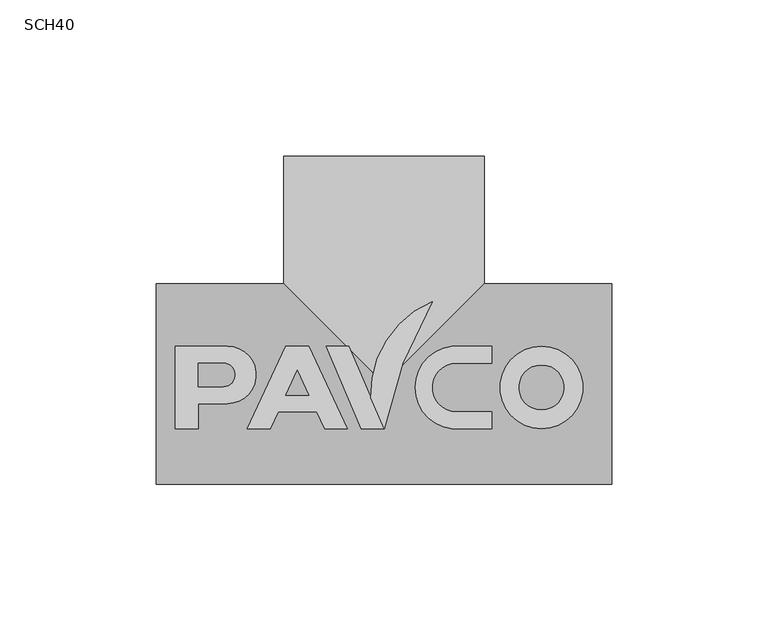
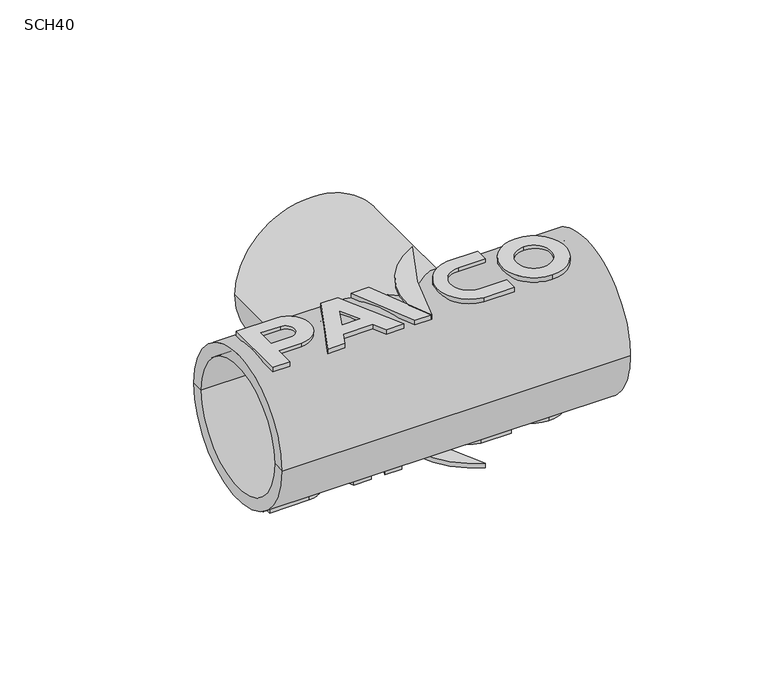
"""IFC4 building model written with IfcOpenShell, lengths in millimetres: pipe fitting geometry, PavcoWavin_UnionesDeTuberia_CpvcTee : SCH40."""

from ifc_helpers import new_model, si_unit, point, frame, frame_2d, origin, place, context, project, spatial, polyline, circle_curve, ellipse_curve, trimmed, segment, composite_curve, outline, extrude, source, transform, mapped, element, save
from ifc_brep_helpers import plane_surface, cylinder_surface, revolved_surface, advanced_brep


def sch40_e6cb78b8(model_context):
    return source(origin(), model_context, "Body", "SolidModel", [
        extrude(outline(polyline([(0.0, 0.0), (7.2571428, 0.0), (19.6089665, -26.4885714), (12.3518237, -26.4885714), (9.8137777, -21.0457143), (-2.5566349, -21.0457143), (-5.0946809, -26.4885714), (-12.3518238, -26.4885714), (0.0, 0.0)]), holes=[polyline([(7.3095723, -15.6754286), (3.6285714, -7.7814965), (-0.0524296, -15.6754286), (7.3095723, -15.6754286)])]), frame((-24.1446809, -12.1305766, -32.9801363), z_axis=(0.0, 0.0003380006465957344, 0.9999999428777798), x_axis=(-1.0, 0.0, 0.0)), (0.0, 0.0, 1.0), 1.9942346),
        extrude(outline(composite_curve([segment(polyline([(-10.8131428, 0.0), (0.0, 0.0)]), True, "CONTINUOUS"), segment(trimmed(circle_curve(frame_2d((77.5401711, -112.6545779)), 136.7608571), [point((0.0, 0.0))], [point((-31.5169385, -30.1313757))], True, "CARTESIAN"), True, "CONTINUOUS"), segment(trimmed(circle_curve(frame_2d((0.849861, -30.192512)), 32.3668571), [point((-31.5169385, -30.1313757))], [point((-10.8131428, 0.0))], False, "CARTESIAN"), True, "CONTINUOUS")], self_intersect=False)), frame((0.0, 14.3579933, -32.9890895), z_axis=(0.0, 0.0003380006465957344, 0.9999999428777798), x_axis=(0.3907311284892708, 0.9205048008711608, -0.000311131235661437)), (0.0, 0.0, 1.0), 1.9942346),
        extrude(outline(polyline([(0.0, 0.0), (7.2571429, 0.0), (-3.9865886, -26.4885714), (-11.2437314, -26.4885714), (0.0, 0.0)])), frame((-7.2571429, 14.3579933, -32.9890895), z_axis=(0.0, 0.0003380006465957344, 0.9999999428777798), x_axis=(1.0, 0.0, 0.0)), (0.0, 0.0, 1.0), 1.9942346),
        extrude(outline(composite_curve([segment(trimmed(circle_curve(frame_2d((0.0, -13.337201)), 13.337201), [point((-1.5715678, -26.5814867))], [point((-1.5715678, -0.0929153))], False, "CARTESIAN"), True, "CONTINUOUS"), segment(polyline([(-1.5715678, -0.0929153), (11.1919419, -0.0929153), (11.1919419, -5.5357724), (-0.0929153, -5.5357724)]), True, "CONTINUOUS"), segment(trimmed(circle_curve(frame_2d((-0.0929153, -13.337201)), 7.8014286), [point((-0.0929153, -5.5357724))], [point((-0.0929153, -21.1386295))], True, "CARTESIAN"), True, "CONTINUOUS"), segment(polyline([(-0.0929153, -21.1386295), (11.1919419, -21.1386295), (11.1919419, -26.5814867), (-1.5715678, -26.5814867)]), True, "CONTINUOUS")], self_intersect=False)), frame((23.3157724, 14.4509086, -32.9891209), z_axis=(0.0, 0.0003380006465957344, 0.9999999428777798), x_axis=(1.0, 0.0, 0.0)), (0.0, 0.0, 1.0), 1.9942346),
        extrude(outline(composite_curve([segment(trimmed(circle_curve(frame_2d((0.0, -13.2442857)), 13.2442857), [point((0.0, -26.4885714))], [point((0.0, 0.0))], False, "CARTESIAN"), True, "CONTINUOUS"), segment(trimmed(circle_curve(frame_2d((0.0, -13.2442857)), 13.2442857), [point((0.0, 0.0))], [point((0.0, -26.4885714))], False, "CARTESIAN"), True, "CONTINUOUS")], self_intersect=False), holes=[composite_curve([segment(trimmed(circle_curve(frame_2d((0.0, -13.2442857)), 7.1966667), [point((0.0, -20.4409524))], [point((0.0, -6.047619))], True, "CARTESIAN"), True, "CONTINUOUS"), segment(trimmed(circle_curve(frame_2d((0.0, -13.2442857)), 7.1966667), [point((0.0, -6.047619))], [point((0.0, -20.4409524))], True, "CARTESIAN"), True, "CONTINUOUS")], self_intersect=False)]), frame((50.4371429, 14.3579933, -32.9890895), z_axis=(0.0, 0.0003380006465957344, 0.9999999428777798), x_axis=(1.0, 0.0, 0.0)), (0.0, 0.0, 1.0), 1.9942346),
        extrude(outline(composite_curve([segment(polyline([(-26.4885714, 0.0), (0.0, 0.0), (0.0, -7.2571429), (-8.0917143, -7.2571429), (-8.0917143, -16.5708253)]), True, "CONTINUOUS"), segment(trimmed(circle_curve(frame_2d((-17.2901428, -16.5708253)), 9.1984286), [point((-8.0917143, -16.5708253))], [point((-26.4885714, -16.5708253))], False, "CARTESIAN"), True, "CONTINUOUS"), segment(polyline([(-26.4885714, -16.5708253), (-26.4885714, 0.0)]), True, "CONTINUOUS")], self_intersect=False), holes=[composite_curve([segment(polyline([(-13.5345714, -7.2571429), (-21.0457142, -7.2571429), (-21.0457142, -15.3125714)]), True, "CONTINUOUS"), segment(trimmed(circle_curve(frame_2d((-17.2901428, -15.3125714)), 3.7555714), [point((-21.0457142, -15.3125714))], [point((-13.5345714, -15.3125714))], True, "CARTESIAN"), True, "CONTINUOUS"), segment(polyline([(-13.5345714, -15.3125714), (-13.5345714, -7.2571429)]), True, "CONTINUOUS")], self_intersect=False)]), frame((-66.802, 14.3579933, -32.9890895), z_axis=(0.0, 0.0003380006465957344, 0.9999999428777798), x_axis=(0.0, 0.9999999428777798, -0.0003380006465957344)), (0.0, 0.0, 1.0), 1.9942346),
        extrude(outline(polyline([(0.0, 0.0), (12.3518238, -26.4885714), (5.0946809, -26.4885714), (2.5566349, -21.0457143), (-9.8137777, -21.0457143), (-12.3518237, -26.4885714), (-19.6089665, -26.4885714), (-7.2571428, 0.0), (0.0, 0.0)]), holes=[polyline([(-7.3095723, -15.6754285), (0.0524296, -15.6754285), (-3.6285714, -7.7814966), (-7.3095723, -15.6754285)])]), frame((-24.1446809, 12.1299714, 30.9858749), z_axis=(0.0, 0.0003402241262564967, 0.9999999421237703), x_axis=(1.0, 0.0, 0.0)), (0.0, 0.0, 1.0), 1.9942346),
        extrude(outline(composite_curve([segment(trimmed(circle_curve(frame_2d((-0.8498609, -30.1925121)), 32.3668571), [point((10.8131428, 0.0))], [point((31.5169385, -30.1313757))], False, "CARTESIAN"), True, "CONTINUOUS"), segment(trimmed(circle_curve(frame_2d((-77.540171, -112.654578)), 136.7608571), [point((31.5169385, -30.1313757))], [point((0.0, 0.0))], True, "CARTESIAN"), True, "CONTINUOUS"), segment(polyline([(0.0, 0.0), (10.8131428, 0.0)]), True, "CONTINUOUS")], self_intersect=False)), frame((0.0, -14.3585985, 30.9948869), z_axis=(0.0, 0.0003402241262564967, 0.9999999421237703), x_axis=(-0.3907311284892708, 0.9205048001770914, -0.00031317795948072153)), (0.0, 0.0, 1.0), 1.9942346),
        extrude(outline(polyline([(0.0, 0.0), (11.2437314, -26.4885714), (3.9865886, -26.4885714), (-7.2571429, 0.0), (0.0, 0.0)])), frame((-7.2571429, -14.3585985, 30.9948869), z_axis=(0.0, 0.0003402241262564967, 0.9999999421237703), x_axis=(-1.0, 0.0, 0.0)), (0.0, 0.0, 1.0), 1.9942346),
        extrude(outline(composite_curve([segment(polyline([(1.5715678, -26.5814866), (-11.1919419, -26.5814866), (-11.1919419, -21.1386295), (0.0929153, -21.1386295)]), True, "CONTINUOUS"), segment(trimmed(circle_curve(frame_2d((0.0929153, -13.337201)), 7.8014286), [point((0.0929153, -21.1386295))], [point((0.0929153, -5.5357723))], True, "CARTESIAN"), True, "CONTINUOUS"), segment(polyline([(0.0929153, -5.5357723), (-11.1919419, -5.5357723), (-11.1919419, -0.0929152), (1.5715678, -0.0929152)]), True, "CONTINUOUS"), segment(trimmed(circle_curve(frame_2d((0.0, -13.337201)), 13.337201), [point((1.5715678, -0.0929152))], [point((1.5715678, -26.5814866))], False, "CARTESIAN"), True, "CONTINUOUS")], self_intersect=False)), frame((23.3157724, -14.4515137, 30.9949185), z_axis=(0.0, 0.0003402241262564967, 0.9999999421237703), x_axis=(-1.0, 0.0, 0.0)), (0.0, 0.0, 1.0), 1.9942346),
        extrude(outline(composite_curve([segment(trimmed(circle_curve(frame_2d((0.0, -13.2442858)), 13.2442857), [point((0.0, -26.4885714))], [point((0.0, 0.0))], False, "CARTESIAN"), True, "CONTINUOUS"), segment(trimmed(circle_curve(frame_2d((0.0, -13.2442858)), 13.2442857), [point((0.0, 0.0))], [point((0.0, -26.4885714))], False, "CARTESIAN"), True, "CONTINUOUS")], self_intersect=False), holes=[composite_curve([segment(trimmed(circle_curve(frame_2d((0.0, -13.2442858)), 7.1966667), [point((0.0, -20.4409524))], [point((0.0, -6.047619))], True, "CARTESIAN"), True, "CONTINUOUS"), segment(trimmed(circle_curve(frame_2d((0.0, -13.2442858)), 7.1966667), [point((0.0, -6.047619))], [point((0.0, -20.4409524))], True, "CARTESIAN"), True, "CONTINUOUS")], self_intersect=False)]), frame((50.4371429, -14.3585985, 30.9948869), z_axis=(0.0, 0.0003402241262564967, 0.9999999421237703), x_axis=(-1.0, 0.0, 0.0)), (0.0, 0.0, 1.0), 1.9942346),
        extrude(outline(composite_curve([segment(polyline([(26.4885714, 0.0), (26.4885714, -16.5708253)]), True, "CONTINUOUS"), segment(trimmed(circle_curve(frame_2d((17.2901429, -16.5708253)), 9.1984286), [point((26.4885714, -16.5708253))], [point((8.0917143, -16.5708253))], False, "CARTESIAN"), True, "CONTINUOUS"), segment(polyline([(8.0917143, -16.5708253), (8.0917143, -7.2571429), (0.0, -7.2571429), (0.0, 0.0), (26.4885714, 0.0)]), True, "CONTINUOUS")], self_intersect=False), holes=[composite_curve([segment(polyline([(13.5345715, -7.2571429), (13.5345715, -15.3125714)]), True, "CONTINUOUS"), segment(trimmed(circle_curve(frame_2d((17.2901429, -15.3125714)), 3.7555714), [point((13.5345715, -15.3125714))], [point((21.0457143, -15.3125714))], True, "CARTESIAN"), True, "CONTINUOUS"), segment(polyline([(21.0457143, -15.3125714), (21.0457143, -7.2571429), (13.5345715, -7.2571429)]), True, "CONTINUOUS")], self_intersect=False)]), frame((-66.802, -14.3585985, 30.9948869), z_axis=(0.0, 0.0003402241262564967, 0.9999999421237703), x_axis=(0.0, 0.9999999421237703, -0.0003402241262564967)), (0.0, 0.0, 1.0), 1.9942346),
        advanced_brep(
        [(-73.03, -32.19, 0.0), (-73.03, 32.19, 0.0), (-32.19, 32.19, 0.0), (0.0, 0.0, -32.19), (32.19, 32.19, 0.0), (73.03, 32.19, 0.0), (73.03, -32.19, 0.0), (0.0, 0.0, 32.19), (-73.03, -26.99, 0.0), (-73.03, 26.99, 0.0), (73.03, 26.99, 0.0), (73.03, -26.99, 0.0), (-29.35, -26.99, 0.0), (-29.35, 26.99, 0.0), (-29.35, 0.0, 0.0), (29.35, -26.99, 0.0), (29.35, 26.99, 0.0), (29.35, 0.0, 0.0), (26.99, 29.35, 0.0), (26.99, 73.03, 0.0), (-26.99, 73.03, 0.0), (-26.99, 29.35, 0.0), (0.0, 29.35, 0.0), (32.19, 73.03, 0.0), (-32.19, 73.03, 0.0)],
        [
            (0, 1, circle_curve(frame((-73.03, 0.0, 0.0), z_axis=(1.0, 0.0, 0.0), x_axis=(0.0, 1.0, 0.0)), 32.19)),
            (1, 2),
            (2, 3, ellipse_curve(frame((0.0, 0.0, 0.0), z_axis=(-0.7071067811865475, -0.7071067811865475, 0.0), x_axis=(-0.7071067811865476, 0.7071067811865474, 0.0)), 45.5235346, 32.19)),
            (3, 4, ellipse_curve(frame((0.0, 0.0, 0.0), z_axis=(0.7071067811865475, -0.7071067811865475, 0.0), x_axis=(-0.7071067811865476, -0.7071067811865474, 0.0)), 45.5235346, 32.19)),
            (4, 5),
            (5, 6, circle_curve(frame((73.03, 0.0, 0.0), z_axis=(-1.0, 0.0, 0.0), x_axis=(0.0, 1.0, 0.0)), 32.19)),
            (6, 0),
            (6, 5, circle_curve(frame((73.03, 0.0, 0.0), z_axis=(-1.0, 0.0, 0.0), x_axis=(0.0, 1.0, 0.0)), 32.19)),
            (4, 7, ellipse_curve(frame((0.0, 0.0, 0.0), z_axis=(0.7071067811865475, -0.7071067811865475, 0.0), x_axis=(-0.7071067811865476, -0.7071067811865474, 0.0)), 45.5235346, 32.19)),
            (7, 2, ellipse_curve(frame((0.0, 0.0, 0.0), z_axis=(-0.7071067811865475, -0.7071067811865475, 0.0), x_axis=(-0.7071067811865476, 0.7071067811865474, 0.0)), 45.5235346, 32.19)),
            (1, 0, circle_curve(frame((-73.03, 0.0, 0.0), z_axis=(1.0, 0.0, 0.0), x_axis=(0.0, 1.0, 0.0)), 32.19)),
            (0, 8),
            (8, 9, circle_curve(frame((-73.03, 0.0, 0.0), z_axis=(1.0, 0.0, 0.0), x_axis=(0.0, 1.0, 0.0)), 26.99)),
            (9, 1),
            (9, 8, circle_curve(frame((-73.03, 0.0, 0.0), z_axis=(1.0, 0.0, 0.0), x_axis=(0.0, 1.0, 0.0)), 26.99)),
            (5, 10),
            (10, 11, circle_curve(frame((73.03, 0.0, 0.0), z_axis=(-1.0, 0.0, 0.0), x_axis=(0.0, 1.0, 0.0)), 26.99)),
            (11, 6),
            (11, 10, circle_curve(frame((73.03, 0.0, 0.0), z_axis=(-1.0, 0.0, 0.0), x_axis=(0.0, 1.0, 0.0)), 26.99)),
            (8, 12),
            (12, 13, circle_curve(frame((-29.35, 0.0, 0.0), z_axis=(1.0, 0.0, 0.0), x_axis=(0.0, 1.0, 0.0)), 26.99)),
            (13, 9),
            (13, 12, circle_curve(frame((-29.35, 0.0, 0.0), z_axis=(1.0, 0.0, 0.0), x_axis=(0.0, 1.0, 0.0)), 26.99)),
            (12, 14),
            (14, 13),
            (15, 11),
            (10, 16),
            (16, 15, circle_curve(frame((29.35, 0.0, 0.0), z_axis=(-1.0, 0.0, 0.0), x_axis=(0.0, 1.0, 0.0)), 26.99)),
            (15, 16, circle_curve(frame((29.35, 0.0, 0.0), z_axis=(-1.0, 0.0, 0.0), x_axis=(0.0, 1.0, 0.0)), 26.99)),
            (16, 17),
            (17, 15),
            (18, 19),
            (19, 20, circle_curve(frame((0.0, 73.03, 0.0), z_axis=(0.0, 1.0, 0.0), x_axis=(-1.0, 0.0, 0.0)), 26.99)),
            (20, 21),
            (21, 18, circle_curve(frame((0.0, 29.35, 0.0), z_axis=(0.0, -1.0, 0.0), x_axis=(-1.0, 0.0, 0.0)), 26.99)),
            (18, 21, circle_curve(frame((0.0, 29.35, 0.0), z_axis=(0.0, -1.0, 0.0), x_axis=(-1.0, 0.0, 0.0)), 26.99)),
            (20, 19, circle_curve(frame((0.0, 73.03, 0.0), z_axis=(0.0, 1.0, 0.0), x_axis=(-1.0, 0.0, 0.0)), 26.99)),
            (21, 22),
            (22, 18),
            (23, 24, circle_curve(frame((0.0, 73.03, 0.0), z_axis=(0.0, 1.0, 0.0), x_axis=(-1.0, 0.0, 0.0)), 32.19)),
            (24, 20),
            (19, 23),
            (24, 23, circle_curve(frame((0.0, 73.03, 0.0), z_axis=(0.0, 1.0, 0.0), x_axis=(-1.0, 0.0, 0.0)), 32.19)),
            (23, 4),
            (2, 24),
        ],
        [
            cylinder_surface(frame((2021.1398675, 0.0, 0.0), z_axis=(-1.0, 0.0, 0.0), x_axis=(0.0, 1.0, 0.0)), 32.19),
            plane_surface(frame((-73.03, 0.0, 0.0), z_axis=(-1.0, 0.0, 0.0), x_axis=(0.0, 1.0, 0.0))),
            plane_surface(frame((73.03, 0.0, 0.0), z_axis=(1.0, 0.0, 0.0), x_axis=(0.0, 1.0, 0.0))),
            revolved_surface(polyline([(-73.0300000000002, 26.99, 0.0), (-29.34999999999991, 26.99, 0.0)]), (2000.0, 0.0, 0.0), (-1.0, 0.0, 0.0)),
            plane_surface(frame((-29.35, 0.0, 0.0), z_axis=(-1.0, 0.0, 0.0), x_axis=(0.0, 1.0, 0.0))),
            revolved_surface(polyline([(29.34999999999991, 26.99, 0.0), (73.02999999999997, 26.99, 0.0)]), (2000.0, 0.0, 0.0), (-1.0, 0.0, 0.0)),
            plane_surface(frame((29.35, 0.0, 0.0), z_axis=(1.0, 0.0, 0.0), x_axis=(0.0, 1.0, 0.0))),
            revolved_surface(polyline([(-26.99, 29.34999999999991, 0.0), (-26.99, 73.02999999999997, 0.0)]), (0.0, 2000.0, 0.0), (0.0, -1.0, 0.0)),
            plane_surface(frame((0.0, 29.35, 0.0), z_axis=(0.0, 1.0, 0.0), x_axis=(-1.0, 0.0, 0.0))),
            plane_surface(frame((0.0, 73.03, 0.0), z_axis=(0.0, 1.0, 0.0), x_axis=(-1.0, 0.0, 0.0))),
            cylinder_surface(frame((0.0, 2016.120255, 0.0), z_axis=(0.0, -1.0, 0.0), x_axis=(-1.0, 0.0, 0.0)), 32.19),
        ],
        [
            (0, [[1, 2, 3, 4, 5, 6, 7]]),
            (0, [[-7, 8, -5, 9, 10, -2, 11]]),
            (1, [[-1, 12, 13, 14]]),
            (1, [[-11, -14, 15, -12]]),
            (2, [[-6, 16, 17, 18]]),
            (2, [[-8, -18, 19, -16]]),
            (3, [[20, 21, 22, -13]]),
            (3, [[-20, -15, -22, 23]]),
            (4, [[-21, 24, 25]]),
            (4, [[-23, -25, -24]]),
            (5, [[26, -17, 27, 28]]),
            (5, [[-26, 29, -27, -19]]),
            (6, [[-28, 30, 31]]),
            (6, [[-29, -31, -30]]),
            (7, [[32, 33, 34, 35]]),
            (7, [[-32, 36, -34, 37]]),
            (8, [[-35, 38, 39]]),
            (8, [[-36, -39, -38]]),
            (9, [[40, 41, -33, 42]]),
            (9, [[43, -42, -37, -41]]),
            (10, [[-40, 44, -4, -3, 45]]),
            (10, [[-43, -45, -10, -9, -44]]),
        ],
    ),
    ])


if __name__ == "__main__":
    model = new_model("IFC4")
    model_context = context("Model", 3, world=origin())
    ifc_project = project(units=[si_unit("LENGTHUNIT", "METRE", prefix="MILLI")], contexts=[model_context])
    site = spatial("IfcSite", under=ifc_project)
    building = spatial("IfcBuilding", under=site)
    placement = place(None, origin())
    sch40_shape = sch40_e6cb78b8(model_context)
    element("IfcPipeFitting", 1, ObjectType="PavcoWavin_UnionesDeTuberia_CpvcTee : SCH40", at=placement, inside=building, context=model_context, shape_type="MappedRepresentation", body=[
        mapped(sch40_shape, transform((0.0, 0.0, 0.0), x_axis=(1.0, 0.0, 0.0), y_axis=(0.0, 1.0, 0.0), z_axis=(0.0, 0.0, 1.0))),
    ])
    save(model, "model.ifc")
